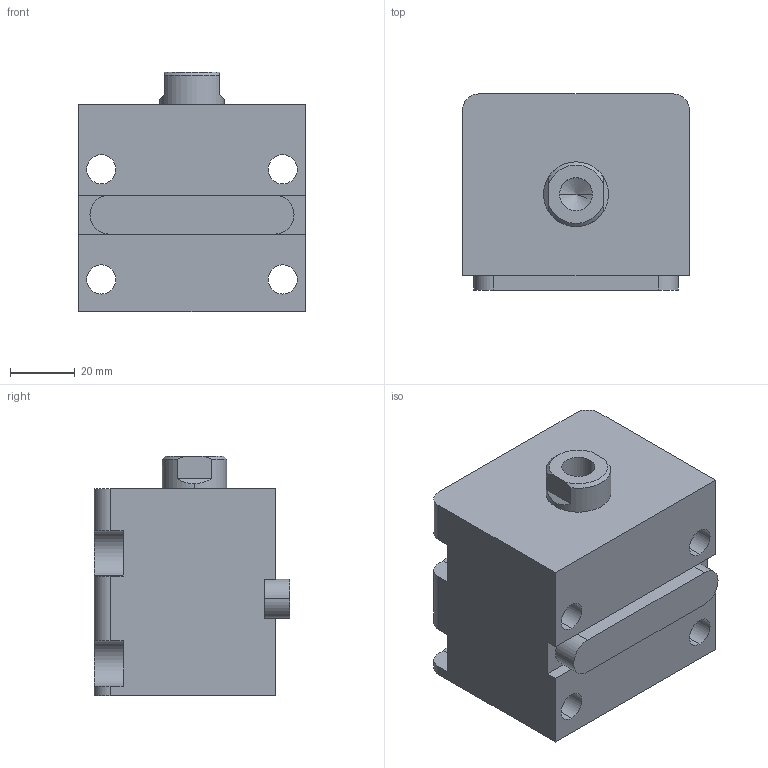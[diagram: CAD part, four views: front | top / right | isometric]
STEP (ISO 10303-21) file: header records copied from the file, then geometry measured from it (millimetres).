
FILE_DESCRIPTION (( 'STEP AP203' ), '1' );
FILE_NAME ('HTB-LA32-10N.STEP', '2019-10-09T06:24:14', ( '微软用户' ), ( '微软中国' ), 'SwSTEP 2.0', 'SolidWorks 2012', '' );
FILE_SCHEMA (( 'CONFIG_CONTROL_DESIGN' ));
Length unit declared in the file: millimetre
Products named in the file (4): HTB-LA32-10掛极; HTB-LA32-10N活塞杆; HTB-LA32-10N; HTB-LA32-瑩
Assembly tree (3 placements, depth 2):
  HTB-LA32-10N
    HTB-LA32-10掛极
    HTB-LA32-10N活塞杆
    HTB-LA32-瑩
Bounding box: 70 x 60.5 x 74 mm (x, y, z)
Volume: 229839.5 mm3; surface area: 45110.3 mm2
Topology: 3 solids, 3 shells, 88 faces, 217 edges, 141 vertices
Faces by surface type: plane 39, cylinder 35, cone 8, torus 6
Entity records: 3053 total; most frequent: DIRECTION 487, CARTESIAN_POINT 478, ORIENTED_EDGE 430, EDGE_CURVE 215, AXIS2_PLACEMENT_3D 186, VERTEX_POINT 141, LINE 115, VECTOR 115
